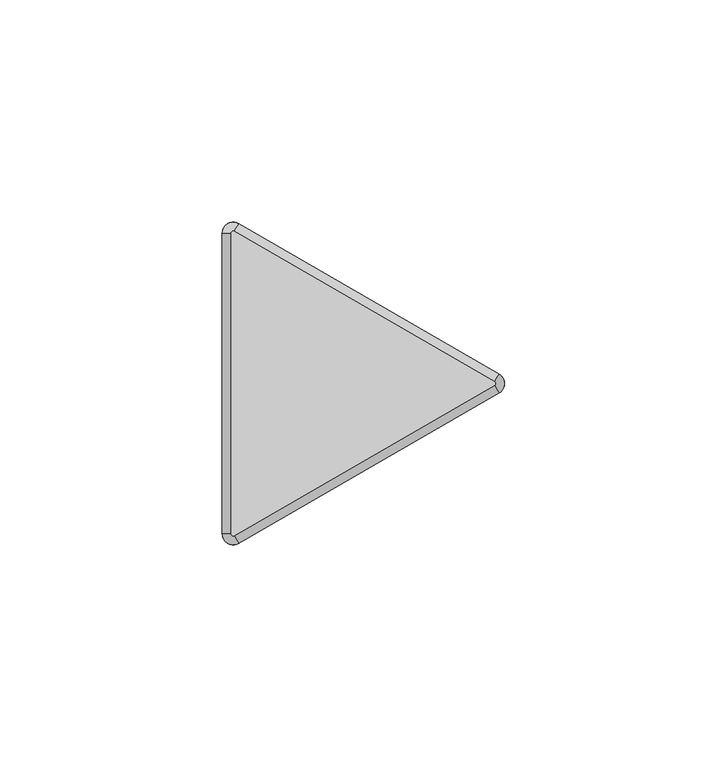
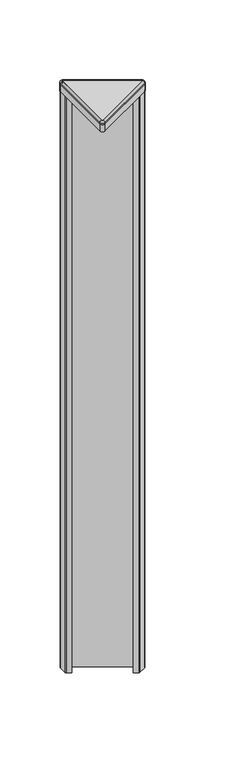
"""IFC4 building model written with IfcOpenShell, lengths in millimetres: furniture geometry, Steelcase - Answer Solution - Panel - 120deg Change-of-Height Trim - Thin : V Corner - 24H for 90H App."""

import ifcopenshell
import ifcopenshell.guid

model = None  # the IFC model being written
_history = None  # IfcOwnerHistory: only IFC2X3 demands one
_inside = {}  # id of a spatial element -> (the spatial element, [elements in it])
_under = {}  # id of a project, library or spatial element -> (it, [spatial elements below it])
_declared = {}  # id of a project -> (the project, [libraries it declares])
_typed = {}  # id of a type object -> (the type object, [elements of that type])
_made_of = {}  # id of a material, layer set ... -> (it, [elements and type objects made of it])


def new_model(schema):
    """Start an empty IFC model of exactly this schema.

    Asked for "IFC4X3", IfcOpenShell would pick the latest addendum, in which some entities
    have other attributes; the version numbers below select the first issue.
    IFC2X3 requires an IfcOwnerHistory on every rooted entity: one is made here for all.
    """
    global model, _history
    if schema == "IFC4X3":
        model = ifcopenshell.file(schema_version=(4, 3, 0, 0))
    else:
        model = ifcopenshell.file(schema=schema)
    _inside.clear()
    _under.clear()
    _declared.clear()
    _typed.clear()
    _made_of.clear()
    _history = None
    if model.schema == "IFC2X3":
        org = make("IfcOrganization", Name="unknown")
        user = make(
            "IfcPersonAndOrganization",
            ThePerson=make("IfcPerson", FamilyName="unknown"),
            TheOrganization=org,
        )
        app = make(
            "IfcApplication",
            ApplicationDeveloper=org,
            Version="unknown",
            ApplicationFullName="unknown",
            ApplicationIdentifier="unknown",
        )
        _history = make(
            "IfcOwnerHistory",
            OwningUser=user,
            OwningApplication=app,
            ChangeAction="ADDED",
            CreationDate=0,
        )
    return model


def make(cls, **values):
    """One entity of the class cls with the attributes given. An attribute that is None is left unset."""
    return model.create_entity(
        cls, **{name: value for name, value in values.items() if value is not None}
    )


def rooted(cls, **values):
    """An entity with a GlobalId (a new one), such as an element, a storey or a relation."""
    return make(cls, GlobalId=ifcopenshell.guid.new(), OwnerHistory=_history, **values)


def si_unit(unit_type, name, prefix=None):
    """IfcSIUnit, for example si_unit("LENGTHUNIT", "METRE", prefix="MILLI")."""
    return make("IfcSIUnit", UnitType=unit_type, Prefix=prefix, Name=name)


def assignment(units):
    """IfcUnitAssignment: the units of a project."""
    return None if units is None else make("IfcUnitAssignment", Units=units)


def point(xyz):
    """IfcCartesianPoint."""
    return None if xyz is None else make("IfcCartesianPoint", Coordinates=xyz)


def direction(xyz):
    """IfcDirection."""
    return None if xyz is None else make("IfcDirection", DirectionRatios=xyz)


def frame(location, z_axis=None, x_axis=None):
    """IfcAxis2Placement3D, a coordinate frame: its origin and axes. An axis left out is left unset."""
    return make(
        "IfcAxis2Placement3D",
        Location=point(location),
        Axis=direction(z_axis),
        RefDirection=direction(x_axis),
    )


def frame_2d(location, x_axis=None):
    """IfcAxis2Placement2D, a coordinate frame in the plane: its origin and x axis."""
    return make(
        "IfcAxis2Placement2D", Location=point(location), RefDirection=direction(x_axis)
    )


def origin():
    """The frame at (0, 0, 0) with its axes left unset."""
    return frame((0.0, 0.0, 0.0))


def place(relative_to, where):
    """IfcLocalPlacement: puts the frame where relative to a parent placement (None: the world)."""
    return make(
        "IfcLocalPlacement", PlacementRelTo=relative_to, RelativePlacement=where
    )


def context(
    kind, dimensions, precision=None, world=None, true_north=None, identifier=None
):
    """IfcGeometricRepresentationContext, for example the 3D "Model" context."""
    return make(
        "IfcGeometricRepresentationContext",
        ContextIdentifier=identifier,
        ContextType=kind,
        CoordinateSpaceDimension=dimensions,
        Precision=precision,
        WorldCoordinateSystem=world,
        TrueNorth=true_north,
    )


def project(units=None, contexts=None):
    """IfcProject with its units and contexts."""
    return rooted(
        "IfcProject",
        Name="project",
        RepresentationContexts=contexts,
        UnitsInContext=assignment(units),
    )


def spatial(cls, under=None, at=None, **own):
    """A site, building, storey or space (cls), placed at a placement, below another one or the project."""
    s = rooted(cls, ObjectPlacement=at, **own)
    if under is not None:
        _under.setdefault(under.id(), (under, []))[1].append(s)
    return s


def polyline(points):
    """IfcPolyline through the points."""
    return make("IfcPolyline", Points=[point(p) for p in points])


def circle_curve(where, radius):
    """IfcCircle in the frame where."""
    return make("IfcCircle", Position=where, Radius=radius)


def ellipse_curve(where, semi_axis1, semi_axis2):
    """IfcEllipse in the frame where."""
    return make(
        "IfcEllipse", Position=where, SemiAxis1=semi_axis1, SemiAxis2=semi_axis2
    )


def trimmed(basis, trim1, trim2, sense, master):
    """IfcTrimmedCurve: the piece of a basis curve between two trims."""
    return make(
        "IfcTrimmedCurve",
        BasisCurve=basis,
        Trim1=trim1,
        Trim2=trim2,
        SenseAgreement=sense,
        MasterRepresentation=master,
    )


def segment(curve, same_sense, transition):
    """IfcCompositeCurveSegment."""
    return make(
        "IfcCompositeCurveSegment",
        Transition=transition,
        SameSense=same_sense,
        ParentCurve=curve,
    )


def composite_curve(segments, self_intersect=None):
    """IfcCompositeCurve: segments joined end to end."""
    return make("IfcCompositeCurve", Segments=segments, SelfIntersect=self_intersect)


def outline(outer, holes=None, kind="AREA"):
    """IfcArbitraryClosedProfileDef: a profile drawn as a closed curve; with holes, ...WithVoids."""
    if holes is None:
        return make("IfcArbitraryClosedProfileDef", ProfileType=kind, OuterCurve=outer)
    return make(
        "IfcArbitraryProfileDefWithVoids",
        ProfileType=kind,
        OuterCurve=outer,
        InnerCurves=holes,
    )


def extrude(swept, where, along, depth):
    """IfcExtrudedAreaSolid: the profile swept, set in the frame where, extruded along a direction by depth."""
    return make(
        "IfcExtrudedAreaSolid",
        SweptArea=swept,
        Position=where,
        ExtrudedDirection=direction(along),
        Depth=depth,
    )


def shape(context_of_items, identifier, shape_type, items):
    """IfcShapeRepresentation: the items that make up one representation, for example the "Body"."""
    return make(
        "IfcShapeRepresentation",
        ContextOfItems=context_of_items,
        RepresentationIdentifier=identifier,
        RepresentationType=shape_type,
        Items=items,
    )


def source(mapping_origin, context_of_items, identifier, shape_type, items):
    """IfcRepresentationMap: a shape defined once, which mapped items show again and again."""
    return make(
        "IfcRepresentationMap",
        MappingOrigin=mapping_origin,
        MappedRepresentation=shape(context_of_items, identifier, shape_type, items),
    )


def transform(
    local_origin,
    x_axis=None,
    y_axis=None,
    z_axis=None,
    scale=None,
    scale2=None,
    scale3=None,
    uniform=True,
):
    """IfcCartesianTransformationOperator3D, or its non-uniform kind. x_axis, y_axis, z_axis: its Axis1, 2, 3."""
    if uniform:
        return make(
            "IfcCartesianTransformationOperator3D",
            Axis1=direction(x_axis),
            Axis2=direction(y_axis),
            LocalOrigin=point(local_origin),
            Scale=scale,
            Axis3=direction(z_axis),
        )
    return make(
        "IfcCartesianTransformationOperator3DnonUniform",
        Axis1=direction(x_axis),
        Axis2=direction(y_axis),
        LocalOrigin=point(local_origin),
        Scale=scale,
        Axis3=direction(z_axis),
        Scale2=scale2,
        Scale3=scale3,
    )


def mapped(mapping_source, mapping_target):
    """IfcMappedItem: shows the shape of a source again, moved by a transform."""
    return make(
        "IfcMappedItem", MappingSource=mapping_source, MappingTarget=mapping_target
    )


def made_of(thing, what):
    """Note that an element or type object is made of a material, layer set ...; save() writes the relation."""
    if what is not None:
        _made_of.setdefault(what.id(), (what, []))[1].append(thing)
    return thing


def element(
    cls,
    number,
    at=None,
    inside=None,
    cuts=None,
    type_object=None,
    material=None,
    context=None,
    identifier="Body",
    shape_type=None,
    held_by="IfcProductDefinitionShape",
    body=None,
    shapes=None,
    **own,
):
    """One element of the class cls, such as IfcWall. Its Tag is "e" and its number.

    at: its placement. inside: the storey or other place that contains it. cuts: it is an
    opening in that element (IfcRelVoidsElement). A single representation is given by context,
    identifier, shape_type and body (its items); several are given by shapes. held_by: the class
    of the entity that holds the representations. save() writes the other relations.
    """
    e = rooted(cls, Tag="e%d" % number, ObjectPlacement=at, **own)
    if body is not None:
        shapes = [shape(context, identifier, shape_type, body)]
    if shapes is not None:
        e.Representation = make(held_by, Representations=shapes)
    if inside is not None:
        _inside.setdefault(inside.id(), (inside, []))[1].append(e)
    if cuts is not None:
        rooted(
            "IfcRelVoidsElement", RelatingBuildingElement=cuts, RelatedOpeningElement=e
        )
    if type_object is not None:
        _typed.setdefault(type_object.id(), (type_object, []))[1].append(e)
    return made_of(e, material)


def aggregate(whole, parts):
    """IfcRelAggregates: a whole, such as a stair, and the parts it consists of."""
    return rooted("IfcRelAggregates", RelatingObject=whole, RelatedObjects=parts)


def save(model, path):
    """Write the relations noted so far, then the file.

    IfcRelAggregates (storeys below a building ...), IfcRelContainedInSpatialStructure (elements
    in a storey), IfcRelDefinesByType, IfcRelAssociatesMaterial and IfcRelDeclares: one each for
    every whole, place, type object, material and project.
    """
    for whole, parts in _under.values():
        aggregate(whole, parts)
    for where, things in _inside.values():
        rooted(
            "IfcRelContainedInSpatialStructure",
            RelatedElements=things,
            RelatingStructure=where,
        )
    for kind, things in _typed.values():
        rooted("IfcRelDefinesByType", RelatedObjects=things, RelatingType=kind)
    for what, things in _made_of.values():
        rooted("IfcRelAssociatesMaterial", RelatedObjects=things, RelatingMaterial=what)
    for by, libraries in _declared.values():
        rooted("IfcRelDeclares", RelatingContext=by, RelatedDefinitions=libraries)
    model.write(path)


def plane_surface(at):
    """IfcPlane: the flat surface through the origin of the frame at, square to its z axis."""
    return make("IfcPlane", Position=at)


def cylinder_surface(at, radius):
    """IfcCylindricalSurface: all points at the distance radius from the z axis of the frame at."""
    return make("IfcCylindricalSurface", Position=at, Radius=radius)


def revolved_surface(curve, axis_point, axis_direction):
    """IfcSurfaceOfRevolution: the curve turned about the line through axis_point along axis_direction."""
    return make(
        "IfcSurfaceOfRevolution",
        SweptCurve=make("IfcArbitraryOpenProfileDef", ProfileType="CURVE", Curve=curve),
        AxisPosition=make("IfcAxis1Placement", Location=point(axis_point), Axis=direction(axis_direction)),
    )


def advanced_brep(points, edges, surfaces, faces):
    """IfcAdvancedBrep: a solid bounded by faces that lie on surfaces and meet in shared edges.

    An edge is (start, end): straight between two places in points (the first is 0);
    or (start, end, curve); or (start, end, curve, False) where it runs against its curve.
    A face is (place in surfaces, loops), or (place, loops, False) where it looks against
    its surface's normal. A loop lists edges by number (the first is 1), with a minus sign
    where the edge is run from its end to its start. The first loop is the outer one.
    """
    corners = [point(p) for p in points]
    vertices = [make("IfcVertexPoint", VertexGeometry=c) for c in corners]
    made = []
    for start, end, *more in edges:
        made.append(
            make(
                "IfcEdgeCurve",
                EdgeStart=vertices[start],
                EdgeEnd=vertices[end],
                EdgeGeometry=more[0] if more else make("IfcPolyline", Points=[corners[start], corners[end]]),
                SameSense=more[1] if len(more) > 1 else True,
            )
        )
    hull = []
    for where, loops, *sense in faces:
        bounds = []
        for j, loop in enumerate(loops):
            ring = [make("IfcOrientedEdge", EdgeElement=made[abs(k) - 1], Orientation=k > 0) for k in loop]
            bounds.append(
                make(
                    "IfcFaceOuterBound" if j == 0 else "IfcFaceBound",
                    Bound=make("IfcEdgeLoop", EdgeList=ring),
                    Orientation=True,
                )
            )
        hull.append(make("IfcAdvancedFace", Bounds=bounds, FaceSurface=surfaces[where], SameSense=sense[0] if sense else True))
    return make("IfcAdvancedBrep", Outer=make("IfcClosedShell", CfsFaces=hull))


def furniture_a6d60e36(model_context):
    return source(origin(), model_context, "Body", "SolidModel", [
        advanced_brep(
        [(-10.518645, -37.3335529, 2290.4628978), (-14.2052101, -35.2051135, 2290.4628978), (-14.2052101, -35.2051135, 2289.5164663), (-10.518645, -37.3335529, 2289.5164663), (-11.46175, -35.7000471, 2292.35), (-12.319, -35.2051135, 2292.35), (-11.46175, -35.7000471, 2289.5164663), (-12.319, -35.2051135, 2289.5164663), (48.0429908, -3.5229767, 2289.5164663), (48.0429908, -3.5229767, 2290.4628978), (47.0998858, -1.8894709, 2292.35), (47.0998858, -1.8894709, 2289.5164663), (48.0429908, 0.733902, 2290.4628978), (48.0429908, 0.733902, 2289.5164663), (47.0998858, -0.8996038, 2292.35), (47.0998858, -0.8996038, 2289.5164663), (-10.518645, 34.5444782, 2289.5164663), (-14.2052101, 32.4160388, 2289.5164663), (-11.46175, 32.9109723, 2289.5164663), (-12.319, 32.4160388, 2289.5164663), (-10.518645, 34.5444782, 2290.4628978), (-11.46175, 32.9109723, 2292.35), (-14.2052101, 32.4160388, 2290.4628978), (-12.319, 32.4160388, 2292.35)],
        [
            (0, 1, circle_curve(frame((-11.7475, -35.2051135, 2290.4628978), z_axis=(0.0, 0.0, -1.0), x_axis=(-1.0, 0.0, 0.0)), 2.4577101)),
            (1, 2),
            (2, 3, circle_curve(frame((-11.7475, -35.2051135, 2289.5164663), z_axis=(0.0, 0.0, 1.0), x_axis=(-1.0, 0.0, 0.0)), 2.4577101)),
            (3, 0),
            (4, 5, circle_curve(frame((-11.7475, -35.2051135, 2292.35), z_axis=(0.0, 0.0, -1.0), x_axis=(-1.0, 0.0, 0.0)), 0.5715)),
            (5, 1, circle_curve(frame((-12.3181076, -35.2051135, 2290.4628978), z_axis=(0.0, -1.0, 0.0), x_axis=(1.0, 0.0, 0.0)), 1.8871024)),
            (0, 4, circle_curve(frame((-11.4621962, -35.6992743, 2290.4628978), z_axis=(-0.8660254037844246, -0.5000000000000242, 0.0), x_axis=(-0.5000000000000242, 0.8660254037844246, 0.0)), 1.8871024)),
            (6, 7, circle_curve(frame((-11.7475, -35.2051135, 2289.5164663), z_axis=(0.0, 0.0, -1.0), x_axis=(-1.0, 0.0, 0.0)), 0.5715)),
            (7, 5),
            (4, 6),
            (3, 8),
            (8, 9),
            (9, 0),
            (9, 10, circle_curve(frame((47.0994396, -1.8886981, 2290.4628978), z_axis=(-0.8660254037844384, -0.5000000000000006, 0.0), x_axis=(-0.5000000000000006, 0.8660254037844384, 0.0)), 1.8871024)),
            (10, 4),
            (10, 11),
            (11, 6),
            (12, 9, circle_curve(frame((46.8141358, -1.3945374, 2290.4628978), z_axis=(0.0, 0.0, -1.0), x_axis=(0.4999999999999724, -0.8660254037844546, 0.0)), 2.4577101)),
            (8, 13, circle_curve(frame((46.8141358, -1.3945374, 2289.5164663), z_axis=(0.0, 0.0, 1.0), x_axis=(0.4999999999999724, -0.8660254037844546, 0.0)), 2.4577101)),
            (13, 12),
            (14, 10, circle_curve(frame((46.8141358, -1.3945374, 2292.35), z_axis=(0.0, 0.0, -1.0), x_axis=(0.4999999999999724, -0.8660254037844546, 0.0)), 0.5715)),
            (12, 14, circle_curve(frame((47.0994396, -0.9003766, 2290.4628978), z_axis=(0.8660254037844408, -0.4999999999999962, 0.0), x_axis=(-0.4999999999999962, -0.8660254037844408, 0.0)), 1.8871024)),
            (15, 11, circle_curve(frame((46.8141358, -1.3945374, 2289.5164663), z_axis=(0.0, 0.0, -1.0), x_axis=(0.4999999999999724, -0.8660254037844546, 0.0)), 0.5715)),
            (14, 15),
            (16, 13),
            (2, 17),
            (17, 16, circle_curve(frame((-11.7475, 32.4160388, 2289.5164663), z_axis=(0.0, 0.0, -1.0), x_axis=(0.500000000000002, 0.8660254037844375, 0.0)), 2.4577101)),
            (15, 18),
            (18, 19, circle_curve(frame((-11.7475, 32.4160388, 2289.5164663), z_axis=(0.0, 0.0, 1.0), x_axis=(0.500000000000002, 0.8660254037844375, 0.0)), 0.5715)),
            (19, 7),
            (16, 20),
            (20, 12),
            (20, 21, circle_curve(frame((-11.4621962, 32.9101995, 2290.4628978), z_axis=(0.8660254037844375, -0.5000000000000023, 0.0), x_axis=(-0.5000000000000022, -0.8660254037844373, 0.0)), 1.8871024)),
            (21, 14),
            (21, 18),
            (22, 20, circle_curve(frame((-11.7475, 32.4160388, 2290.4628978), z_axis=(0.0, 0.0, -1.0), x_axis=(0.500000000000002, 0.8660254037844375, 0.0)), 2.4577101)),
            (17, 22),
            (23, 21, circle_curve(frame((-11.7475, 32.4160388, 2292.35), z_axis=(0.0, 0.0, -1.0), x_axis=(0.500000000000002, 0.8660254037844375, 0.0)), 0.5715)),
            (22, 23, circle_curve(frame((-12.3181076, 32.4160388, 2290.4628978), z_axis=(0.0, 1.0, 0.0), x_axis=(1.0, 0.0, 0.0)), 1.8871024)),
            (23, 19),
            (1, 22),
            (5, 23),
        ],
        [
            cylinder_surface(frame((-11.7475, -35.2051135, 0.0), z_axis=(0.0, 0.0, 1.0), x_axis=(-1.0, 0.0, 0.0)), 2.4577101),
            revolved_surface(trimmed(ellipse_curve(frame((-12.3181076, -35.2051135, 2290.4628978), z_axis=(0.0, 1.0, 0.0), x_axis=(1.0, 0.0, 0.0)), 1.8871024, 1.8871024), [point((-14.2052101, -35.2051135, 2290.4628978))], [point((-12.319, -35.2051135, 2292.35))], True, "CARTESIAN"), (-11.7475, -35.2051135, 0.0), (0.0, 0.0, 1.0)),
            revolved_surface(polyline([(-12.319, -35.2051135, 2292.35), (-12.319, -35.2051135, 2289.5164663)]), (-11.7475, -35.2051135, 0.0), (0.0, 0.0, 1.0)),
            plane_surface(frame((-10.518645, -37.3335529, 2289.5164663), z_axis=(0.5000000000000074, -0.8660254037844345, 0.0), x_axis=(0.8660254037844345, 0.5000000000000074, 0.0))),
            cylinder_surface(frame((-11.4621962, -35.6992743, 2290.4628978), z_axis=(-0.8660254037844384, -0.5000000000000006, 0.0), x_axis=(-0.5000000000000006, 0.8660254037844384, 0.0)), 1.8871024),
            plane_surface(frame((-11.46175, -35.7000471, 2292.35), z_axis=(-0.5000000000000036, 0.8660254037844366, 0.0), x_axis=(0.8660254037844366, 0.5000000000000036, 0.0))),
            cylinder_surface(frame((46.8141358, -1.3945374, 0.0), z_axis=(0.0, 0.0, 1.0), x_axis=(0.4999999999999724, -0.8660254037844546, 0.0)), 2.4577101),
            revolved_surface(trimmed(ellipse_curve(frame((47.0994396, -1.8886981, 2290.4628978), z_axis=(-0.8660254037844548, -0.499999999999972, 0.0), x_axis=(-0.499999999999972, 0.8660254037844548, 0.0)), 1.8871024, 1.8871024), [point((48.0429908, -3.5229767, 2290.4628978))], [point((47.0998858, -1.8894709, 2292.35))], True, "CARTESIAN"), (46.8141358, -1.3945374, 0.0), (0.0, 0.0, 1.0)),
            revolved_surface(polyline([(47.09988579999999, -1.8894709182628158, 2292.35), (47.09988579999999, -1.8894709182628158, 2289.5164663)]), (46.8141358, -1.3945374, 0.0), (0.0, 0.0, 1.0)),
            plane_surface(frame((47.0998858, -0.8996038, 2289.5164663), z_axis=(0.0, 0.0, -1.0000000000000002), x_axis=(-0.8660254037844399, 0.49999999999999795, 0.0))),
            plane_surface(frame((48.0429908, 0.733902, 2289.5164663), z_axis=(0.5000000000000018, 0.8660254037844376, 0.0), x_axis=(-0.8660254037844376, 0.5000000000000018, 0.0))),
            cylinder_surface(frame((47.0994396, -0.9003766, 2290.4628978), z_axis=(0.8660254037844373, -0.5000000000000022, 0.0), x_axis=(-0.5000000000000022, -0.8660254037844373, 0.0)), 1.8871024),
            plane_surface(frame((47.0998858, -0.8996038, 2292.35), z_axis=(-0.49999999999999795, -0.8660254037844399, 0.0), x_axis=(-0.8660254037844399, 0.49999999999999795, 0.0))),
            cylinder_surface(frame((-11.7475, 32.4160388, 0.0), z_axis=(0.0, 0.0, 1.0), x_axis=(0.500000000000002, 0.8660254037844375, 0.0)), 2.4577101),
            revolved_surface(trimmed(ellipse_curve(frame((-11.4621962, 32.9101995, 2290.4628978), z_axis=(0.866025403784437, -0.5000000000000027, 0.0), x_axis=(-0.5000000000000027, -0.866025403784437, 0.0)), 1.8871024, 1.8871024), [point((-10.518645, 34.5444782, 2290.4628978))], [point((-11.46175, 32.9109723, 2292.35))], True, "CARTESIAN"), (-11.7475, 32.4160388, 0.0), (0.0, 0.0, 1.0)),
            revolved_surface(polyline([(-11.461749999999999, 32.91097231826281, 2292.35), (-11.461749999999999, 32.91097231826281, 2289.5164663)]), (-11.7475, 32.4160388, 0.0), (0.0, 0.0, 1.0)),
            plane_surface(frame((-14.2052101, 32.4160388, 2289.5164663), z_axis=(-1.0, 0.0, 0.0), x_axis=(0.0, -1.0, 0.0))),
            cylinder_surface(frame((-12.3181076, 32.4160388, 2290.4628978), z_axis=(0.0, 1.0, 0.0), x_axis=(1.0, 0.0, 0.0)), 1.8871024),
            plane_surface(frame((-12.319, 32.4160388, 2292.35), z_axis=(1.0, 0.0, 0.0), x_axis=(0.0, -1.0, 0.0))),
        ],
        [
            (0, [[1, 2, 3, 4]]),
            (1, [[5, 6, -1, 7]]),
            (2, [[8, 9, -5, 10]]),
            (3, [[-4, 11, 12, 13]]),
            (4, [[-7, -13, 14, 15]]),
            (5, [[-10, -15, 16, 17]]),
            (6, [[18, -12, 19, 20]]),
            (7, [[21, -14, -18, 22]]),
            (8, [[23, -16, -21, 24]]),
            (9, [[25, -19, -11, -3, 26, 27], [-8, -17, -23, 28, 29, 30]]),
            (10, [[-20, -25, 31, 32]]),
            (11, [[-22, -32, 33, 34]]),
            (12, [[-24, -34, 35, -28]]),
            (13, [[36, -31, -27, 37]]),
            (14, [[38, -33, -36, 39]]),
            (15, [[-29, -35, -38, 40]]),
            (16, [[-37, -26, -2, 41]]),
            (17, [[-39, -41, -6, 42]]),
            (18, [[-40, -42, -9, -30]]),
        ],
    ),
        extrude(outline(composite_curve([segment(trimmed(circle_curve(frame_2d((46.8261011, -1.3945374)), 0.5655173), [point((47.1088598, -0.904785))], [point((47.1088598, -1.8842897))], False, "CARTESIAN"), True, "CONTINUOUS"), segment(polyline([(47.1088598, -1.8842897), (-11.4505119, -35.6935587)]), True, "CONTINUOUS"), segment(trimmed(circle_curve(frame_2d((-11.7400079, -35.1921369)), 0.5789921), [point((-11.4505119, -35.6935587))], [point((-12.319, -35.1921369))], False, "CARTESIAN"), True, "CONTINUOUS"), segment(polyline([(-12.319, -35.1921369), (-12.319, 32.3985888)]), True, "CONTINUOUS"), segment(trimmed(circle_curve(frame_2d((-11.7374252, 32.3985888)), 0.5815748), [point((-12.319, 32.3985888))], [point((-11.4466378, 32.9022473))], False, "CARTESIAN"), True, "CONTINUOUS"), segment(polyline([(-11.4466378, 32.9022473), (47.1088598, -0.904785)]), True, "CONTINUOUS")], self_intersect=False)), frame((0.0, 0.0, 2289.5164663), z_axis=(0.0, 0.0, 1.0), x_axis=(1.0, 0.0, 0.0)), (0.0, 0.0, 1.0), 2.8335337),
        extrude(outline(composite_curve([segment(trimmed(circle_curve(frame_2d((47.9608454, -1.3945374)), 1.2935425), [point((48.6076166, -0.2742967))], [point((48.6076166, -2.514778))], False, "CARTESIAN"), True, "CONTINUOUS"), segment(polyline([(48.6076166, -2.514778), (41.722656, -6.4898119)]), True, "CONTINUOUS"), segment(trimmed(circle_curve(frame_2d((41.0991304, -5.4098338)), 1.2470513), [point((41.722656, -6.4898119))], [point((40.4756048, -6.4898119))], False, "CARTESIAN"), True, "CONTINUOUS"), segment(polyline([(40.4756048, -6.4898119), (36.3239304, -4.0928416), (36.7811304, -3.300948), (41.0991304, -5.7939464), (47.3502407, -2.1848662)]), True, "CONTINUOUS"), segment(trimmed(circle_curve(frame_2d((46.8939441, -1.3945374)), 0.9125932), [point((47.3502407, -2.1848662))], [point((47.3502407, -0.6042085))], True, "CARTESIAN"), True, "CONTINUOUS"), segment(polyline([(47.3502407, -0.6042085), (-11.3312768, 33.2755814)]), True, "CONTINUOUS"), segment(trimmed(circle_curve(frame_2d((-11.7875179, 32.4853487)), 0.9124821), [point((-11.3312768, 33.2755814))], [point((-12.7, 32.4853487))], True, "CARTESIAN"), True, "CONTINUOUS"), segment(polyline([(-12.7, 32.4853487), (-12.7, 25.266996), (-8.382, 22.7739975), (-8.8392, 21.9821039), (-12.9583282, 24.3602837)]), True, "CONTINUOUS"), segment(trimmed(circle_curve(frame_2d((-12.3022565, 25.4966333)), 1.3121435), [point((-12.9583282, 24.3602837))], [point((-13.6144, 25.4966333))], False, "CARTESIAN"), True, "CONTINUOUS"), segment(polyline([(-13.6144, 25.4966333), (-13.6144, 33.3957138)]), True, "CONTINUOUS"), segment(trimmed(circle_curve(frame_2d((-12.3131174, 33.3957138)), 1.3012826), [point((-13.6144, 33.3957138))], [point((-11.6624761, 34.5226576))], False, "CARTESIAN"), True, "CONTINUOUS"), segment(polyline([(-11.6624761, 34.5226576), (48.6076166, -0.2742967)]), True, "CONTINUOUS")], self_intersect=False)), frame((0.0, 0.0, 1682.75), z_axis=(0.0, 0.0, 1.0), x_axis=(1.0, 0.0, 0.0)), (0.0, 0.0, 1.0), 599.44),
        extrude(outline(composite_curve([segment(trimmed(circle_curve(frame_2d((46.8140443, -1.3945374)), 2.4577558), [point((48.0429222, 0.7339416))], [point((48.0429222, -3.5230163))], False, "CARTESIAN"), True, "CONTINUOUS"), segment(polyline([(48.0429222, -3.5230163), (-10.518058, -37.333214)]), True, "CONTINUOUS"), segment(trimmed(circle_curve(frame_2d((-11.7471087, -35.2044357)), 2.4581014), [point((-10.518058, -37.333214))], [point((-14.2052101, -35.2044357))], False, "CARTESIAN"), True, "CONTINUOUS"), segment(polyline([(-14.2052101, -35.2044357), (-14.2052101, 32.4160388)]), True, "CONTINUOUS"), segment(trimmed(circle_curve(frame_2d((-11.7475, 32.4160388)), 2.4577101), [point((-14.2052101, 32.4160388))], [point((-10.518645, 34.5444782))], False, "CARTESIAN"), True, "CONTINUOUS"), segment(polyline([(-10.518645, 34.5444782), (48.0429222, 0.7339416)]), True, "CONTINUOUS")], self_intersect=False)), frame((0.0, 0.0, 2282.19), z_axis=(0.0, 0.0, 1.0), x_axis=(1.0, 0.0, 0.0)), (0.0, 0.0, 1.0), 7.3264663),
    ])


if __name__ == "__main__":
    model = new_model("IFC4")
    model_context = context("Model", 3, world=origin())
    ifc_project = project(units=[si_unit("LENGTHUNIT", "METRE", prefix="MILLI")], contexts=[model_context])
    site = spatial("IfcSite", under=ifc_project)
    building = spatial("IfcBuilding", under=site)
    placement = place(None, origin())
    furniture_shape = furniture_a6d60e36(model_context)
    element("IfcFurniture", 1, ObjectType="Steelcase - Answer Solution - Panel - 120deg Change-of-Height Trim - Thin : V Corner - 24H for 90H App", at=placement, inside=building, context=model_context, shape_type="MappedRepresentation", body=[
        mapped(furniture_shape, transform((0.0, 0.0, 0.0), x_axis=(1.0, 0.0, 0.0), y_axis=(0.0, 1.0, 0.0), z_axis=(0.0, 0.0, 1.0))),
    ])
    save(model, "model.ifc")
